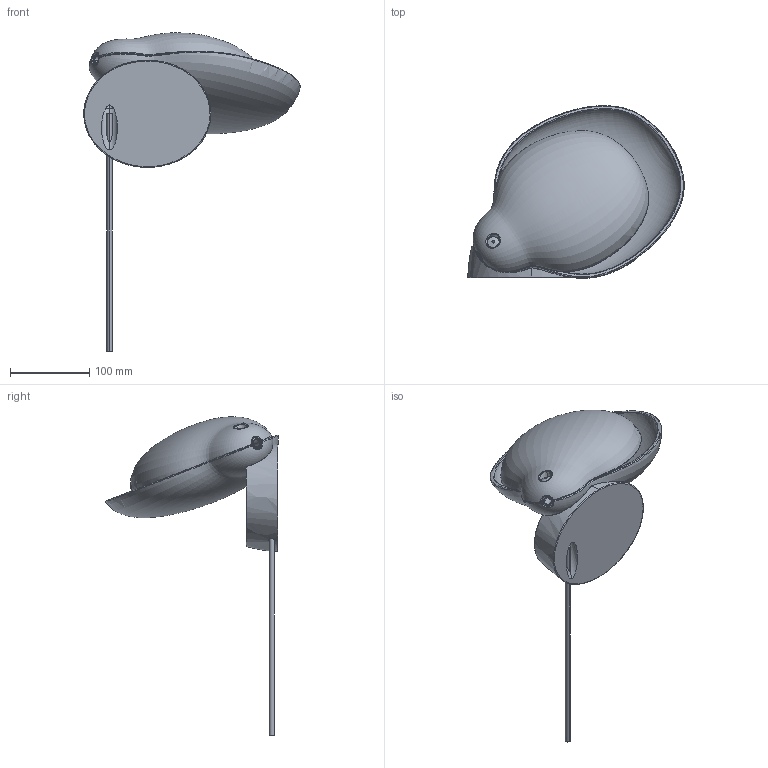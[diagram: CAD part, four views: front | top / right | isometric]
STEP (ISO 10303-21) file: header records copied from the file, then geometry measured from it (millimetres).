
FILE_DESCRIPTION (( 'STEP AP214' ), '1' );
FILE_NAME ('Petal Table Lamp straight lightweight.STEP', '2024-02-16T05:55:13', ( '' ), ( '' ), 'SwSTEP 2.0', 'SolidWorks 2017', '' );
FILE_SCHEMA (( 'AUTOMOTIVE_DESIGN' ));
Length unit declared in the file: millimetre
Products named in the file (1): Petal Table Lamp straight lightweight
Bounding box: 272.42 x 217.39 x 400.54 mm (x, y, z)
Volume: 1167457.2 mm3; surface area: 326488.7 mm2
Topology: 10 solids, 10 shells, 256 faces, 590 edges, 349 vertices
Faces by surface type: bspline 131, cylinder 69, plane 44, cone 12
Entity records: 93967 total; most frequent: CARTESIAN_POINT 86192, ORIENTED_EDGE 1160, DIRECTION 778, EDGE_CURVE 580, VERTEX_POINT 349, AXIS2_PLACEMENT_3D 320, EDGE_LOOP 279, UNCERTAINTY_MEASURE_WITH_UNIT 268
